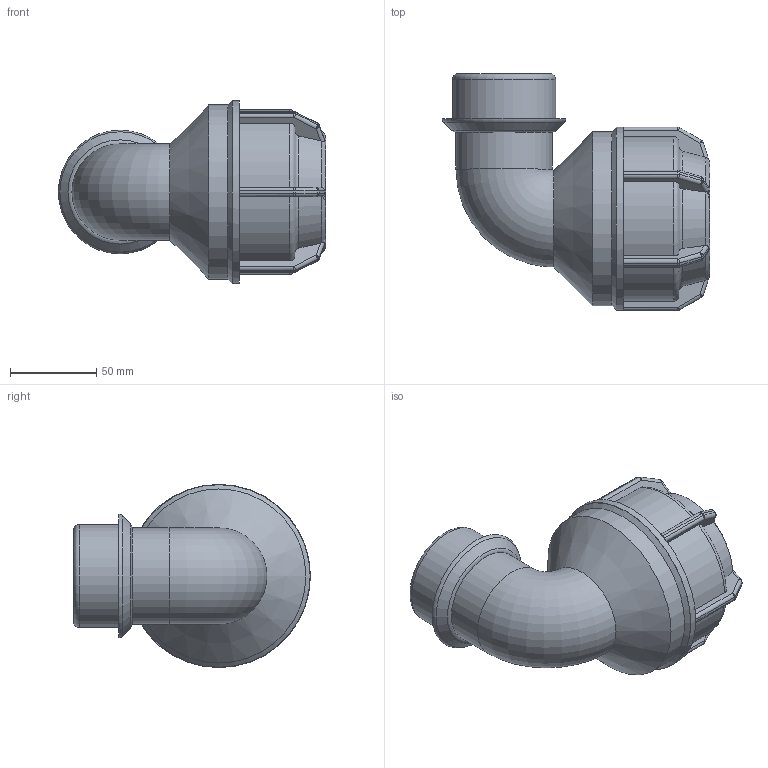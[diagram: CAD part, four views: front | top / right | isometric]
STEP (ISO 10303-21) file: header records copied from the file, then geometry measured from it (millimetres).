
FILE_DESCRIPTION(/* description */ ('PLASSON L.14 90° ELBOW MALE ADAPTOR (SILVER) 63-2"'),/* implementation_level */ '2;1');
FILE_NAME(/* name */ 'C:\Dropbox\KIMPROJECTS-Inventor\99-16-3568-Processing\Silver+MF ISRAEL\148500\148500063020.ipt.stp',/* time_stamp */ '2018-04-09T13:05:54+03:00',/* author */ ('KIM'),/* organization */ (''),/* preprocessor_version */ 'ST-DEVELOPER v15.6',/* originating_system */ 'Autodesk Inventor 2015',/* authorisation */ '');
FILE_SCHEMA (('AUTOMOTIVE_DESIGN { 1 0 10303 214 3 1 1 }'));
Length unit declared in the file: millimetre
Products named in the file (1): 148500063020
Bounding box: 154.77 x 137 x 106 mm (x, y, z)
Volume: 385613.6 mm3; surface area: 90441.8 mm2
Topology: 1 solids, 1 shells, 213 faces, 500 edges, 287 vertices
Faces by surface type: plane 98, cylinder 62, sphere 24, torus 19, cone 10
Full cylindrical faces by diameter (mm): 47.691 x2, 55.739 x1, 59.614 x1, 63 x2, 100.8 x1, 106 x1
Entity records: 6094 total; most frequent: CARTESIAN_POINT 1532, DIRECTION 962, ORIENTED_EDGE 922, EDGE_CURVE 461, AXIS2_PLACEMENT_3D 391, VERTEX_POINT 275, EDGE_LOOP 236, FACE_OUTER_BOUND 211
